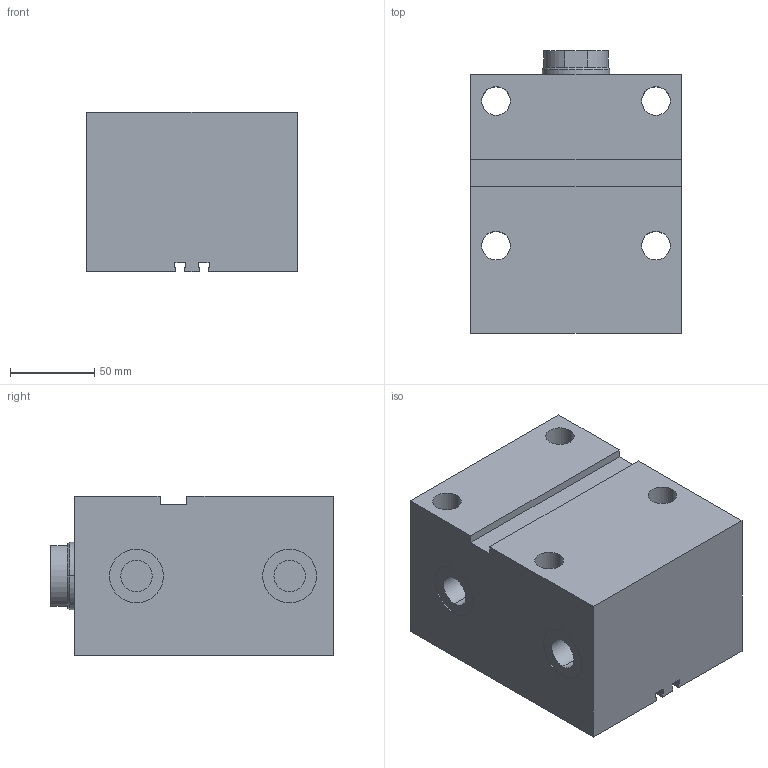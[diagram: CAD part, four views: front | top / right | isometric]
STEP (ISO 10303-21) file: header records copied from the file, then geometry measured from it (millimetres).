
FILE_DESCRIPTION (( 'STEP AP203' ), '1' );
FILE_NAME ('GERMA_Blockzylinder_701-063-063.STEP', '2016-07-26T09:29:08', ( '' ), ( '' ), 'SwSTEP 2.0', 'SolidWorks 2015', '' );
FILE_SCHEMA (( 'CONFIG_CONTROL_DESIGN' ));
Length unit declared in the file: millimetre
Products named in the file (3): GH-700-063_GH-701-063-063; Kolben_MT 70x-063_Kolben_MT DU.63-Hub63-IG; GERMA_Blockzylinder_701-063-063
Assembly tree (2 placements, depth 2):
  GERMA_Blockzylinder_701-063-063
    GH-700-063_GH-701-063-063
    Kolben_MT 70x-063_Kolben_MT DU.63-Hub63-IG
Bounding box: 125 x 168 x 95 mm (x, y, z)
Volume: 1587192.5 mm3; surface area: 177084.6 mm2
Topology: 2 solids, 2 shells, 96 faces, 226 edges, 142 vertices
Faces by surface type: plane 43, cylinder 39, cone 14
Entity records: 3042 total; most frequent: DIRECTION 511, CARTESIAN_POINT 463, ORIENTED_EDGE 440, EDGE_CURVE 220, AXIS2_PLACEMENT_3D 190, VERTEX_POINT 142, LINE 131, VECTOR 131
